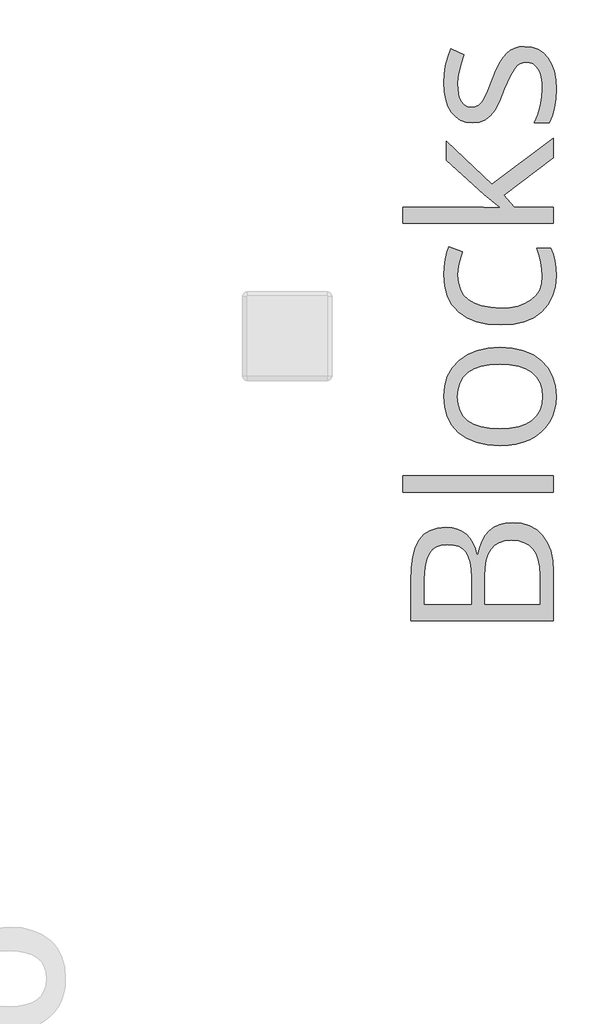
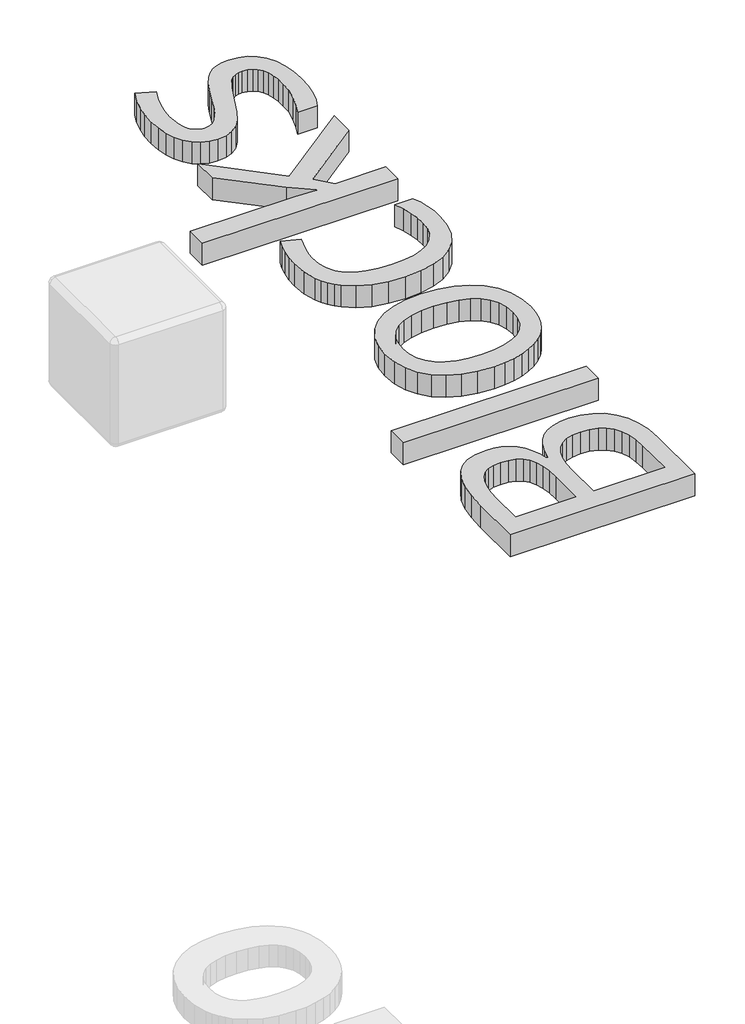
# One storey, part 4 of 4: 1 proxy.
"""IFC4 building model written with IfcOpenShell, lengths in millimetres."""

from ifc_helpers import new_model, si_unit, origin, origin_with_axes, place, context, project, spatial, polyline, outline, extrude, element, save

model = new_model("IFC4")

# Units and contexts
model_context = context("Model", 3, world=origin())
ifc_project = project(units=[si_unit("LENGTHUNIT", "METRE", prefix="MILLI")], contexts=[model_context])

# Site, building, storey
site = spatial("IfcSite", under=ifc_project)
building = spatial("IfcBuilding", under=site)
storey = spatial("IfcBuildingStorey", under=building, Name="PORTOBELLO - SHOWROOM", Elevation=0.0)

# Proxy
placement = place(None, origin())
element("IfcBuildingElementProxy", 1, Name="80mm OpenSans", ObjectType="80mm OpenSans", at=placement, inside=storey, context=model_context, shape_type="SweptSolid", body=[
    extrude(outline(polyline([(109324.244347, 11120.7937346), (109324.244347, 11345.7768552), (109327.1813262, 11419.6069531), (109335.9922637, 11482.4553028), (109350.6771595, 11534.3219042), (109371.2360137, 11575.2067575), (109398.1345365, 11606.1764893), (109431.8384382, 11628.2977263), (109472.3477187, 11641.5704685), (109519.662378, 11645.9947159), (109553.3212109, 11643.5234469), (109583.8703012, 11636.1096402), (109611.3096488, 11623.7532956), (109635.6392538, 11606.4544132), (109656.4234516, 11584.4233136), (109673.226578, 11557.8703178), (109686.0486328, 11526.7954256), (109694.8896162, 11491.1986372), (109700.177681, 11491.1986372), (109710.0928025, 11533.732255), (109724.0941559, 11570.5947237), (109742.1817411, 11601.7860435), (109764.3555583, 11627.3062141), (109790.6156074, 11647.1552358), (109820.9618883, 11661.3331084), (109855.3944012, 11669.8398319), (109893.9131459, 11672.6754065), (109945.1487851, 11668.1610216), (109990.4503744, 11654.617867), (110029.8179136, 11632.0459427), (110063.2514028, 11600.4452486), (110089.909559, 11560.7472053), (110108.9510992, 11513.8832333), (110120.3760233, 11459.8533326), (110124.1843313, 11398.6575032), (110124.1843313, 11120.7937346), (109324.244347, 11120.7937346)]), holes=[polyline([(109662.6804942, 11213.8156017), (109662.6804942, 11365.7272815), (109660.7500501, 11411.2091456), (109654.9587178, 11449.8255393), (109645.3064972, 11481.5764624), (109631.7933884, 11506.4619151), (109613.7133146, 11525.2330429), (109590.3601989, 11538.6409913), (109561.7340413, 11546.6857603), (109527.8348418, 11549.36735), (109496.6322549, 11546.3777906), (109470.0867705, 11537.4091125), (109448.1983887, 11522.4613157), (109430.9671093, 11501.5344002), (109417.9272223, 11474.102564), (109408.6130172, 11439.6400054), (109403.0244942, 11398.1467242), (109401.1616532, 11349.6227205), (109401.1616532, 11213.8156017), (109662.6804942, 11213.8156017)]), polyline([(109739.5978004, 11213.8156017), (110047.2670251, 11213.8156017), (110047.2670251, 11379.4281766), (110044.8558479, 11424.534468), (110037.622316, 11463.7067094), (110025.5664297, 11496.9449008), (110008.6881888, 11524.2490422), (109986.6871351, 11545.544019), (109959.2628104, 11560.7547168), (109926.4152147, 11569.8811354), (109888.144348, 11572.923275), (109852.4499106, 11569.8135323), (109821.8031714, 11560.4843044), (109796.2041304, 11544.9355911), (109775.6527877, 11523.1673926), (109759.8787307, 11495.0595254), (109748.6115472, 11460.4918063), (109741.8512371, 11419.4642354), (109739.5978004, 11371.9768126), (109739.5978004, 11213.8156017)])]), origin_with_axes(), (0.0, 0.0, 1.0), 100.0),
    extrude(outline(polyline([(110124.1843313, 11934.4346141), (110124.1843313, 11843.5760461), (109278.0939633, 11843.5760461), (109278.0939633, 11934.4346141), (110124.1843313, 11934.4346141)])), origin_with_axes(), (0.0, 0.0, 1.0), 100.0),
    extrude(outline(polyline([(109823.726104, 12655.7747261), (109894.0408407, 12651.1551809), (109956.1981364, 12637.2965452), (110010.1979913, 12614.1988189), (110056.0404054, 12581.8620022), (110092.5836373, 12541.3977905), (110118.6859458, 12493.9178791), (110134.3473309, 12439.4222681), (110139.5677926, 12377.9109575), (110137.1716382, 12338.7837849), (110129.9831751, 12301.9250719), (110118.0024033, 12267.3348184), (110101.2293228, 12235.0130246), (110079.9794146, 12205.6056756), (110054.5681601, 12179.7587566), (110024.995559, 12157.4722676), (109991.2616116, 12138.7462086), (109953.9296768, 12123.9185951), (109913.563114, 12113.3274426), (109870.1619231, 12106.9727511), (109823.726104, 12104.8545206), (109753.4414132, 12109.4365085), (109691.3742549, 12123.1824724), (109637.5246291, 12146.0924123), (109591.8925359, 12178.166328), (109555.5596247, 12218.3826618), (109529.6075453, 12265.7198555), (109514.0362977, 12320.1779092), (109508.8458818, 12381.7568229), (109514.156481, 12441.3902695), (109530.0882785, 12494.5788872), (109556.6412743, 12541.3226759), (109593.8154685, 12581.6216356), (109640.0484782, 12614.0636127), (109693.7779207, 12637.2364535), (109755.003796, 12651.140158), (109823.726104, 12655.7747261)]), holes=[polyline([(109823.0050043, 12199.3185872), (109878.0489515, 12202.1879633), (109926.1222679, 12210.7960915), (109967.2249534, 12225.1429719), (110001.357008, 12245.2286044), (110028.1729048, 12270.8727141), (110047.3271168, 12301.895026), (110058.819644, 12338.2955403), (110062.6504864, 12380.0742568), (110058.8346669, 12421.8679962), (110047.3872084, 12458.3135792), (110028.308111, 12489.4110057), (110001.5973746, 12515.1602758), (109967.5404345, 12535.3510686), (109926.4227261, 12549.7730636), (109878.2442494, 12558.4262605), (109823.0050043, 12561.3106595), (109768.3291184, 12558.4262605), (109720.6388863, 12549.7730636), (109679.9343079, 12535.3510686), (109646.2153834, 12515.1602758), (109619.7675479, 12489.3358911), (109600.8762369, 12458.0131209), (109589.5414502, 12421.1919652), (109585.763188, 12378.8724239), (109589.48887, 12337.1312646), (109600.6659161, 12300.8434222), (109619.2943262, 12270.0088967), (109645.3741003, 12244.6276879), (109678.8301239, 12224.8049564), (109719.5872825, 12210.6458624), (109767.6455759, 12202.150406), (109823.0050043, 12199.3185872)])]), origin_with_axes(), (0.0, 0.0, 1.0), 100.0),
    extrude(outline(polyline([(110139.5677926, 13057.9080175), (110134.4825371, 12995.8784165), (110119.2267706, 12941.2701337), (110093.8004931, 12894.0831691), (110058.2037046, 12854.3175227), (110013.307734, 12822.7694089), (109959.9839101, 12800.2350418), (109898.2322329, 12786.7144216), (109828.0527025, 12782.2075482), (109756.0704227, 12786.7820247), (109692.7563628, 12800.5054542), (109638.1105227, 12823.3778368), (109592.1329024, 12855.3991723), (109572.612507, 12874.667934), (109555.6948309, 12895.878407), (109541.3798743, 12919.0305913), (109529.667637, 12944.1244869), (109514.0513206, 13000.1374119), (109508.8458818, 13063.9171821), (109511.0692727, 13107.6338542), (109517.7394454, 13151.2904346), (109527.4142003, 13190.199775), (109538.651338, 13219.6747271), (109613.8860781, 13191.551837), (109593.8154685, 13125.0904772), (109587.7762581, 13091.2288349), (109585.763188, 13061.5135163), (109589.5226716, 13018.1911956), (109600.8011223, 12980.6451844), (109619.5985401, 12948.8754826), (109645.9149251, 12922.8820902), (109679.7502772, 12902.6650072), (109721.1045965, 12888.2242337), (109769.9778829, 12879.5597695), (109826.3701364, 12876.6716148), (109880.1371362, 12879.4884107), (109927.2640092, 12887.9387984), (109967.7507553, 12902.0227778), (110001.5973746, 12921.7403489), (110028.308111, 12946.9863515), (110047.3872084, 12977.655625), (110058.8346669, 13013.7481696), (110062.6504864, 13055.2639851), (110060.6223933, 13093.4672487), (110054.5381142, 13132.1211997), (110044.3976491, 13171.225838), (110030.2009978, 13210.7811636), (110109.2816032, 13210.7811636), (110122.5318111, 13178.4218125), (110131.9962452, 13142.1565045), (110137.6749057, 13101.9852395), (110139.5677926, 13057.9080175)])), origin_with_axes(), (0.0, 0.0, 1.0), 100.0),
    extrude(outline(polyline([(109823.2453709, 13442.4945485), (109733.8290024, 13513.6430567), (109524.2293431, 13705.9363222), (109524.2293431, 13812.8994511), (109779.9793861, 13571.5714029), (110124.1843313, 13829.7251118), (110124.1843313, 13720.3583171), (109847.2820291, 13510.037558), (109904.9700087, 13442.734915), (110124.1843313, 13442.734915), (110124.1843313, 13352.8378134), (109278.0939633, 13352.8378134), (109278.0939633, 13442.734915), (109730.2235037, 13442.734915), (109823.2453709, 13438.16795), (109823.2453709, 13442.4945485)])), origin_with_axes(), (0.0, 0.0, 1.0), 100.0),
    extrude(outline(polyline([(109962.4176217, 14343.6288637), (110002.5212836, 14339.7003724), (110037.7424993, 14327.9148985), (110068.0812688, 14308.2724419), (110093.5375921, 14280.7730026), (110113.6758048, 14246.1827492), (110128.0602425, 14205.2678501), (110136.690905, 14158.0283053), (110139.5677926, 14104.4641148), (110137.1941726, 14047.7826703), (110130.0733126, 13997.6812609), (110118.2052126, 13954.1598866), (110101.5898726, 13917.2185476), (110016.5001027, 13917.2185476), (110035.6392917, 13962.3473733), (110050.2716074, 14010.7211479), (110059.5557666, 14059.7559306), (110062.6504864, 14106.8677806), (110061.2233098, 14140.7219114), (110056.9417801, 14170.4146957), (110049.8058972, 14195.9461336), (110039.8156611, 14217.316225), (110026.8959573, 14234.1944659), (110010.9716713, 14246.2503523), (109992.042803, 14253.4838841), (109970.1093524, 14255.8950614), (109952.9682105, 14253.9796402), (109937.119039, 14248.2333766), (109922.5618379, 14238.6562706), (109909.2966072, 14225.2483222), (109881.7746335, 14180.0894506), (109849.6856949, 14105.9063143), (109820.000422, 14033.7362481), (109794.4013811, 13985.96339), (109769.2530274, 13954.9260551), (109740.9198166, 13932.9625587), (109708.0196407, 13919.8926258), (109669.1703919, 13915.5359815), (109633.9867335, 13919.2917094), (109602.709032, 13930.5588929), (109575.3372875, 13949.3375321), (109551.8715, 13975.627627), (109533.047792, 14008.4677112), (109519.6022864, 14046.8963185), (109511.534983, 14090.9134488), (109508.8458818, 14140.5191021), (109511.3396851, 14188.9379454), (109518.821095, 14236.8460098), (109531.2901114, 14284.2432951), (109548.7467344, 14331.1298015), (109623.0200082, 14298.4399464), (109606.7201494, 14253.9721287), (109595.0773931, 14211.6676103), (109588.0917393, 14171.5263912), (109585.763188, 14133.5484712), (109590.9010237, 14076.4013164), (109597.3233183, 14053.8218806), (109606.3145308, 14035.2385393), (109617.5742028, 14020.7264069), (109630.8018763, 14010.360598), (109645.9975511, 14004.1411127), (109663.1612274, 14002.067951), (109685.8458235, 14005.1626707), (109704.8648293, 14014.4468299), (109721.6303984, 14030.6415284), (109737.5546844, 14054.4678658), (109756.5736902, 14094.7893599), (109782.6234185, 14160.4695284), (109802.3635241, 14209.8423266), (109822.1637213, 14250.5168591), (109842.0240101, 14282.493126), (109861.9443905, 14305.7711271), (109883.1867872, 14322.3338869), (109907.0131246, 14334.1644296), (109933.4234028, 14341.2627552), (109962.4176217, 14343.6288637)])), origin_with_axes(), (0.0, 0.0, 1.0), 100.0),
])

save(model, "model.ifc")
